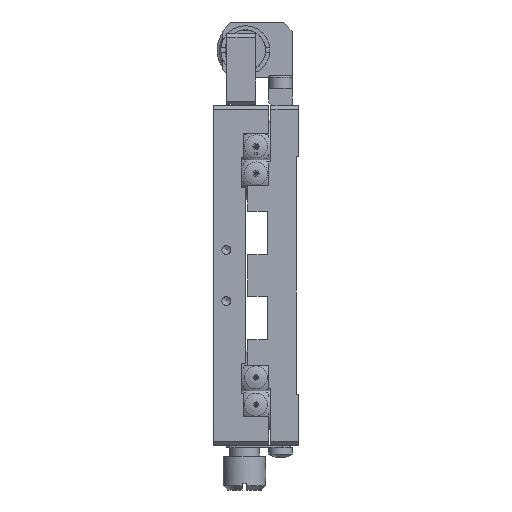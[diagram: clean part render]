
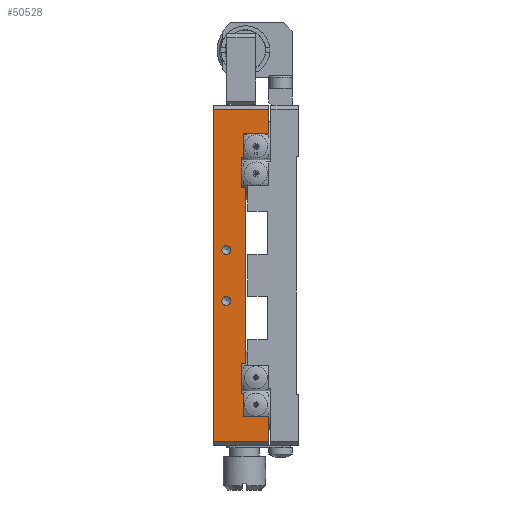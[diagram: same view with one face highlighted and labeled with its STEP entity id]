
A CAD part, left-side view. The second image highlights one B-rep face of the part: STEP entity #50528.
In plain terms, the highlighted planar face has unit normal (-1, 0, 0).
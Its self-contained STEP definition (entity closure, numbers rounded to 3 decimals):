
#624 = LINE ( 'NONE', #7874, #27530 ) ;
#1230 = CARTESIAN_POINT ( 'NONE',  ( 0., 7., -40. ) ) ;
#1707 = DIRECTION ( 'NONE',  ( 0., -1., 0. ) ) ;
#2093 = VERTEX_POINT ( 'NONE', #27639 ) ;
#2887 = VECTOR ( 'NONE', #77820, 1000. ) ;
#3841 = EDGE_CURVE ( 'NONE', #80140, #53716, #76815, .T. ) ;
#4011 = CARTESIAN_POINT ( 'NONE',  ( 0., 17., 6. ) ) ;
#4999 = ORIENTED_EDGE ( 'NONE', *, *, #58885, .F. ) ;
#6479 = EDGE_CURVE ( 'NONE', #95356, #80140, #9013, .T. ) ;
#7794 = ORIENTED_EDGE ( 'NONE', *, *, #59254, .T. ) ;
#7874 = CARTESIAN_POINT ( 'NONE',  ( 0., 13., -27.7 ) ) ;
#8011 = PLANE ( 'NONE',  #87805 ) ;
#8810 = DIRECTION ( 'NONE',  ( 0., 0., 1. ) ) ;
#8952 = LINE ( 'NONE', #38463, #77289 ) ;
#9013 = LINE ( 'NONE', #30313, #35196 ) ;
#9363 = CARTESIAN_POINT ( 'NONE',  ( 0., 13.5, 27.7 ) ) ;
#10578 = VERTEX_POINT ( 'NONE', #35723 ) ;
#11041 = CARTESIAN_POINT ( 'NONE',  ( 0., 13.5, -27.7 ) ) ;
#11618 = VERTEX_POINT ( 'NONE', #20756 ) ;
#12162 = LINE ( 'NONE', #35858, #15640 ) ;
#12653 = VECTOR ( 'NONE', #54984, 1000. ) ;
#14170 = VERTEX_POINT ( 'NONE', #29164 ) ;
#14219 = CARTESIAN_POINT ( 'NONE',  ( 0., 7., 33.4 ) ) ;
#15376 = ORIENTED_EDGE ( 'NONE', *, *, #71559, .T. ) ;
#15408 = ORIENTED_EDGE ( 'NONE', *, *, #82591, .F. ) ;
#15640 = VECTOR ( 'NONE', #56169, 1000. ) ;
#16036 = VECTOR ( 'NONE', #86456, 1000. ) ;
#16382 = EDGE_CURVE ( 'NONE', #10578, #74140, #37946, .T. ) ;
#17233 = VERTEX_POINT ( 'NONE', #86853 ) ;
#17297 = LINE ( 'NONE', #92211, #63932 ) ;
#17423 = ORIENTED_EDGE ( 'NONE', *, *, #59887, .T. ) ;
#18257 = DIRECTION ( 'NONE',  ( 0., -1., 0. ) ) ;
#18703 = CARTESIAN_POINT ( 'NONE',  ( 0., 7., -39. ) ) ;
#18876 = DIRECTION ( 'NONE',  ( 0., 1., 0. ) ) ;
#20220 = CARTESIAN_POINT ( 'NONE',  ( 0., 13.5, -27.7 ) ) ;
#20756 = CARTESIAN_POINT ( 'NONE',  ( 0., 13.5, -20.7 ) ) ;
#21833 = CIRCLE ( 'NONE', #92844, 1.025 ) ;
#22039 = VERTEX_POINT ( 'NONE', #60668 ) ;
#22791 = VECTOR ( 'NONE', #55049, 1000. ) ;
#24816 = DIRECTION ( 'NONE',  ( 0., 0., 1. ) ) ;
#25783 = DIRECTION ( 'NONE',  ( -1., 0., 0. ) ) ;
#26413 = EDGE_CURVE ( 'NONE', #10578, #29144, #62234, .T. ) ;
#26786 = DIRECTION ( 'NONE',  ( -1., 0., 0. ) ) ;
#27530 = VECTOR ( 'NONE', #8810, 1000. ) ;
#27574 = LINE ( 'NONE', #73024, #54260 ) ;
#27639 = CARTESIAN_POINT ( 'NONE',  ( 0., 12.5, -20.7 ) ) ;
#27868 = CIRCLE ( 'NONE', #58793, 1.025 ) ;
#28420 = CARTESIAN_POINT ( 'NONE',  ( 0., 7., -40. ) ) ;
#29144 = VERTEX_POINT ( 'NONE', #37874 ) ;
#29164 = CARTESIAN_POINT ( 'NONE',  ( 0., 17., 7.025 ) ) ;
#29315 = DIRECTION ( 'NONE',  ( -1., 0., 0. ) ) ;
#29753 = CARTESIAN_POINT ( 'NONE',  ( 0., 7., -39. ) ) ;
#30313 = CARTESIAN_POINT ( 'NONE',  ( 0., 13.5, 27.7 ) ) ;
#33605 = DIRECTION ( 'NONE',  ( 0., 0., 1. ) ) ;
#34896 = VERTEX_POINT ( 'NONE', #85013 ) ;
#34960 = EDGE_CURVE ( 'NONE', #71657, #52738, #71472, .T. ) ;
#35010 = EDGE_CURVE ( 'NONE', #86723, #69103, #35679, .T. ) ;
#35026 = LINE ( 'NONE', #94028, #43009 ) ;
#35196 = VECTOR ( 'NONE', #38986, 1000. ) ;
#35679 = LINE ( 'NONE', #20220, #53120 ) ;
#35723 = CARTESIAN_POINT ( 'NONE',  ( 0., 20., -39. ) ) ;
#35858 = CARTESIAN_POINT ( 'NONE',  ( 0., 7., 39. ) ) ;
#36806 = ORIENTED_EDGE ( 'NONE', *, *, #76363, .T. ) ;
#37110 = CARTESIAN_POINT ( 'NONE',  ( 0., 13.5, -27.7 ) ) ;
#37874 = CARTESIAN_POINT ( 'NONE',  ( 0., 20., 39. ) ) ;
#37895 = EDGE_CURVE ( 'NONE', #53716, #34896, #17297, .T. ) ;
#37946 = LINE ( 'NONE', #29753, #50159 ) ;
#38463 = CARTESIAN_POINT ( 'NONE',  ( 0., 7., 33.4 ) ) ;
#38488 = DIRECTION ( 'NONE',  ( 0., 1., 0. ) ) ;
#38986 = DIRECTION ( 'NONE',  ( 0., 1., 0. ) ) ;
#42792 = CARTESIAN_POINT ( 'NONE',  ( 0., 7., 39. ) ) ;
#43009 = VECTOR ( 'NONE', #33605, 1000. ) ;
#44934 = DIRECTION ( 'NONE',  ( 0., 0., -1. ) ) ;
#45228 = DIRECTION ( 'NONE',  ( 0., 0., 1. ) ) ;
#45760 = ORIENTED_EDGE ( 'NONE', *, *, #49723, .T. ) ;
#46424 = CARTESIAN_POINT ( 'NONE',  ( 0., 7., -33.2 ) ) ;
#47241 = CARTESIAN_POINT ( 'NONE',  ( 0., 20., -40. ) ) ;
#47365 = EDGE_LOOP ( 'NONE', ( #15408 ) ) ;
#49723 = EDGE_CURVE ( 'NONE', #17233, #69103, #624, .T. ) ;
#50159 = VECTOR ( 'NONE', #74701, 1000. ) ;
#50380 = CARTESIAN_POINT ( 'NONE',  ( 0., 13., 33.4 ) ) ;
#50386 = ORIENTED_EDGE ( 'NONE', *, *, #6479, .F. ) ;
#50528 = ADVANCED_FACE ( 'NONE', ( #66533, #67477, #73798 ), #8011, .T. ) ;
#50639 = ORIENTED_EDGE ( 'NONE', *, *, #37895, .F. ) ;
#52172 = ORIENTED_EDGE ( 'NONE', *, *, #55260, .F. ) ;
#52408 = VECTOR ( 'NONE', #38488, 1000. ) ;
#52738 = VERTEX_POINT ( 'NONE', #42792 ) ;
#52992 = LINE ( 'NONE', #62135, #52408 ) ;
#53120 = VECTOR ( 'NONE', #64198, 1000. ) ;
#53716 = VERTEX_POINT ( 'NONE', #59707 ) ;
#54207 = VECTOR ( 'NONE', #24816, 1000. ) ;
#54260 = VECTOR ( 'NONE', #44934, 1000. ) ;
#54984 = DIRECTION ( 'NONE',  ( 0., 0., 1. ) ) ;
#55049 = DIRECTION ( 'NONE',  ( 0., 0., -1. ) ) ;
#55260 = EDGE_CURVE ( 'NONE', #11618, #86723, #79245, .T. ) ;
#55425 = ORIENTED_EDGE ( 'NONE', *, *, #3841, .F. ) ;
#55791 = DIRECTION ( 'NONE',  ( 0., 0., 1. ) ) ;
#56151 = ORIENTED_EDGE ( 'NONE', *, *, #35010, .F. ) ;
#56169 = DIRECTION ( 'NONE',  ( 0., 1., 0. ) ) ;
#57641 = EDGE_LOOP ( 'NONE', ( #4999 ) ) ;
#57647 = VERTEX_POINT ( 'NONE', #50380 ) ;
#58748 = ORIENTED_EDGE ( 'NONE', *, *, #26413, .F. ) ;
#58793 = AXIS2_PLACEMENT_3D ( 'NONE', #81257, #26786, #55791 ) ;
#58885 = EDGE_CURVE ( 'NONE', #22039, #22039, #27868, .T. ) ;
#59035 = VERTEX_POINT ( 'NONE', #63175 ) ;
#59254 = EDGE_CURVE ( 'NONE', #57647, #71657, #8952, .T. ) ;
#59707 = CARTESIAN_POINT ( 'NONE',  ( 0., 13.5, 20.7 ) ) ;
#59793 = CARTESIAN_POINT ( 'NONE',  ( 0., 13., -27.7 ) ) ;
#59887 = EDGE_CURVE ( 'NONE', #52738, #29144, #12162, .T. ) ;
#60668 = CARTESIAN_POINT ( 'NONE',  ( 0., 17., -4.975 ) ) ;
#61550 = LINE ( 'NONE', #91051, #54207 ) ;
#62135 = CARTESIAN_POINT ( 'NONE',  ( 0., 13.5, -20.7 ) ) ;
#62234 = LINE ( 'NONE', #47241, #12653 ) ;
#63175 = CARTESIAN_POINT ( 'NONE',  ( 0., 7., -33.2 ) ) ;
#63932 = VECTOR ( 'NONE', #18257, 1000. ) ;
#64198 = DIRECTION ( 'NONE',  ( 0., -1., 0. ) ) ;
#66533 = FACE_BOUND ( 'NONE', #57641, .T. ) ;
#66540 = CARTESIAN_POINT ( 'NONE',  ( 0., 13., 27.7 ) ) ;
#67477 = FACE_BOUND ( 'NONE', #47365, .T. ) ;
#68435 = ORIENTED_EDGE ( 'NONE', *, *, #34960, .T. ) ;
#69103 = VERTEX_POINT ( 'NONE', #59793 ) ;
#70114 = LINE ( 'NONE', #46424, #92727 ) ;
#71056 = CARTESIAN_POINT ( 'NONE',  ( 0., 13.5, -27.7 ) ) ;
#71472 = LINE ( 'NONE', #28420, #16036 ) ;
#71559 = EDGE_CURVE ( 'NONE', #74140, #59035, #35026, .T. ) ;
#71657 = VERTEX_POINT ( 'NONE', #14219 ) ;
#73024 = CARTESIAN_POINT ( 'NONE',  ( 0., 12.5, 20.7 ) ) ;
#73569 = EDGE_CURVE ( 'NONE', #2093, #11618, #52992, .T. ) ;
#73798 = FACE_OUTER_BOUND ( 'NONE', #83347, .T. ) ;
#74140 = VERTEX_POINT ( 'NONE', #18703 ) ;
#74701 = DIRECTION ( 'NONE',  ( 0., -1., 0. ) ) ;
#76363 = EDGE_CURVE ( 'NONE', #59035, #17233, #70114, .T. ) ;
#76815 = LINE ( 'NONE', #11041, #22791 ) ;
#77289 = VECTOR ( 'NONE', #1707, 1000. ) ;
#77302 = EDGE_CURVE ( 'NONE', #95356, #57647, #61550, .T. ) ;
#77820 = DIRECTION ( 'NONE',  ( 0., 0., -1. ) ) ;
#79245 = LINE ( 'NONE', #71056, #2887 ) ;
#80140 = VERTEX_POINT ( 'NONE', #9363 ) ;
#80284 = ORIENTED_EDGE ( 'NONE', *, *, #83032, .F. ) ;
#81257 = CARTESIAN_POINT ( 'NONE',  ( 0., 17., -6. ) ) ;
#81583 = ORIENTED_EDGE ( 'NONE', *, *, #16382, .T. ) ;
#82591 = EDGE_CURVE ( 'NONE', #14170, #14170, #21833, .T. ) ;
#83032 = EDGE_CURVE ( 'NONE', #34896, #2093, #27574, .T. ) ;
#83347 = EDGE_LOOP ( 'NONE', ( #7794, #68435, #17423, #58748, #81583, #15376, #36806, #45760, #56151, #52172, #90891, #80284, #50639, #55425, #50386, #89009 ) ) ;
#85013 = CARTESIAN_POINT ( 'NONE',  ( 0., 12.5, 20.7 ) ) ;
#86456 = DIRECTION ( 'NONE',  ( 0., 0., 1. ) ) ;
#86723 = VERTEX_POINT ( 'NONE', #37110 ) ;
#86853 = CARTESIAN_POINT ( 'NONE',  ( 0., 13., -33.2 ) ) ;
#87805 = AXIS2_PLACEMENT_3D ( 'NONE', #1230, #29315, #45228 ) ;
#89009 = ORIENTED_EDGE ( 'NONE', *, *, #77302, .T. ) ;
#90891 = ORIENTED_EDGE ( 'NONE', *, *, #73569, .F. ) ;
#91051 = CARTESIAN_POINT ( 'NONE',  ( 0., 13., 27.7 ) ) ;
#92023 = DIRECTION ( 'NONE',  ( 0., 0., 1. ) ) ;
#92211 = CARTESIAN_POINT ( 'NONE',  ( 0., 13.5, 20.7 ) ) ;
#92727 = VECTOR ( 'NONE', #18876, 1000. ) ;
#92844 = AXIS2_PLACEMENT_3D ( 'NONE', #4011, #25783, #92023 ) ;
#94028 = CARTESIAN_POINT ( 'NONE',  ( 0., 7., -40. ) ) ;
#95356 = VERTEX_POINT ( 'NONE', #66540 ) ;
